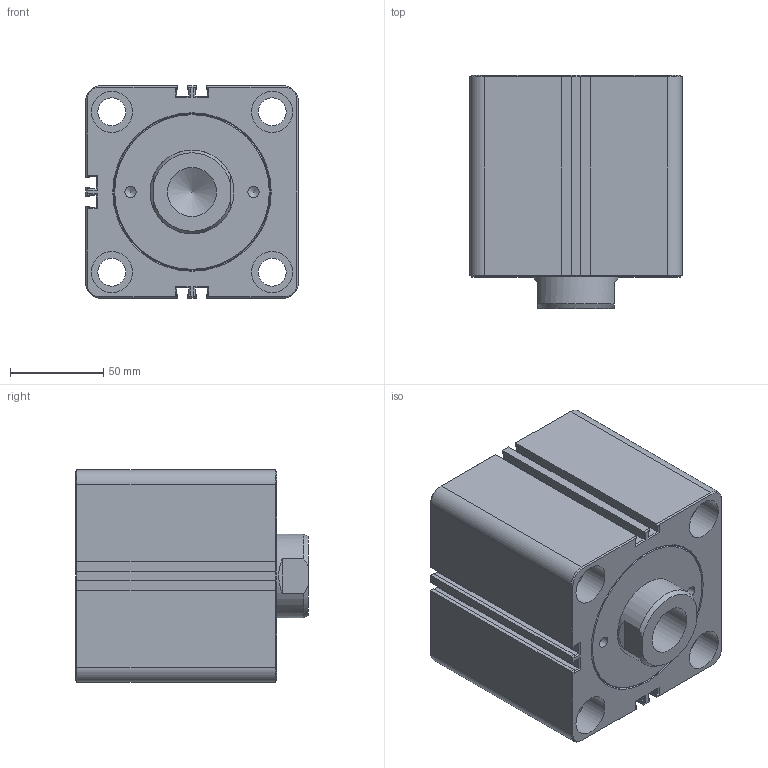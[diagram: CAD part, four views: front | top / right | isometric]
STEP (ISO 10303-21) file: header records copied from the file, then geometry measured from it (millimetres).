
FILE_DESCRIPTION(/* description */ ('Unknown'),/* implementation_level */ '2;1');
FILE_NAME(/* name */ 'HTM70-SD80X30N',/* time_stamp */ '2022-08-31T02:52:39+08:00',/* author */ ('Unknown'),/* organization */ ('Unknown'),/* preprocessor_version */ 'ST-DEVELOPER v16.7',/* originating_system */ 'DEX',/* authorisation */ $);
FILE_SCHEMA (('AUTOMOTIVE_DESIGN {1 0 10303 214 3 1 1}'));
Length unit declared in the file: millimetre
Products named in the file (1): HTM70-SD80X30N
Bounding box: 114 x 125 x 114 mm (x, y, z)
Volume: 1274851.1 mm3; surface area: 110170.6 mm2
Topology: 1 solids, 1 shells, 235 faces, 542 edges, 323 vertices
Faces by surface type: plane 176, cone 24, cylinder 23, bspline 12
Full cylindrical faces by diameter (mm): 6 x1, 6.1 x2, 15 x4, 15.806 x2, 22 x8, 26.211 x1, 45 x1
Entity records: 7999 total; most frequent: CARTESIAN_POINT 1283, ORIENTED_EDGE 1002, DIRECTION 992, EDGE_CURVE 501, LINE 390, VECTOR 390, VERTEX_POINT 312, AXIS2_PLACEMENT_3D 301
